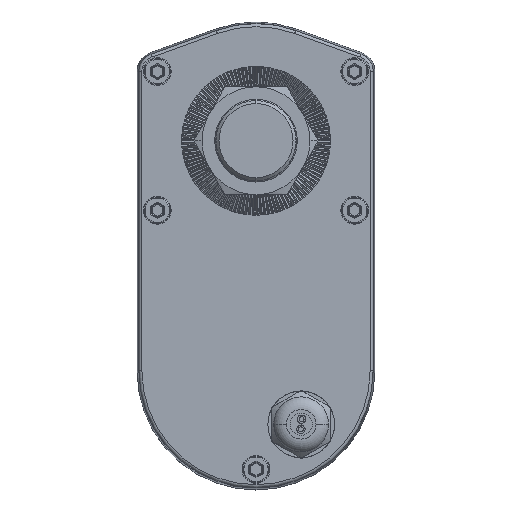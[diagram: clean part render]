
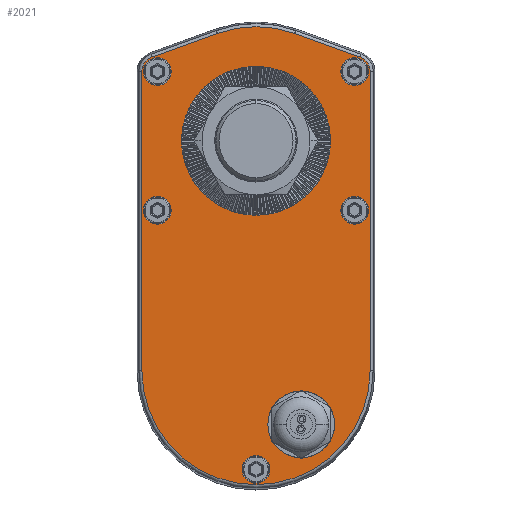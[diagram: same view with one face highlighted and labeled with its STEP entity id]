
A CAD part, top view. The second image highlights one B-rep face of the part: STEP entity #2021.
In plain terms, the highlighted planar face has unit normal (0, 0, 1).
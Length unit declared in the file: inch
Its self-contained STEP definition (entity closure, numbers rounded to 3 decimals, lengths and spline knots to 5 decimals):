
#2021=ADVANCED_FACE('NONE',(#4464,#4465,#4466,#4467,#4468,#4469,#4470,#4471),#4472,.F.);
#4464=FACE_OUTER_BOUND('',#8282,.T.);
#4465=FACE_BOUND('',#8283,.T.);
#4466=FACE_BOUND('',#8284,.T.);
#4467=FACE_BOUND('',#8285,.T.);
#4468=FACE_BOUND('',#8286,.T.);
#4469=FACE_BOUND('',#8287,.T.);
#4470=FACE_BOUND('',#8288,.T.);
#4471=FACE_BOUND('',#8289,.T.);
#4472=PLANE('',#8290);
#8282=EDGE_LOOP('',(#15380,#15381,#15382,#15383,#15384,#15385,#15386,#15387));
#8283=EDGE_LOOP('',(#15388,#15389));
#8284=EDGE_LOOP('',(#15390,#15391));
#8285=EDGE_LOOP('',(#15392,#15393));
#8286=EDGE_LOOP('',(#15394,#15395));
#8287=EDGE_LOOP('',(#15396,#15397));
#8288=EDGE_LOOP('',(#15398,#15399));
#8289=EDGE_LOOP('',(#15400,#15401));
#8290=AXIS2_PLACEMENT_3D('',#15402,#15403,#15404);
#15380=ORIENTED_EDGE('',*,*,#21590,.T.);
#15381=ORIENTED_EDGE('',*,*,#21272,.T.);
#15382=ORIENTED_EDGE('',*,*,#20710,.T.);
#15383=ORIENTED_EDGE('',*,*,#21415,.T.);
#15384=ORIENTED_EDGE('',*,*,#21591,.T.);
#15385=ORIENTED_EDGE('',*,*,#19439,.T.);
#15386=ORIENTED_EDGE('',*,*,#21251,.T.);
#15387=ORIENTED_EDGE('',*,*,#21131,.T.);
#15388=ORIENTED_EDGE('',*,*,#20568,.F.);
#15389=ORIENTED_EDGE('',*,*,#19794,.F.);
#15390=ORIENTED_EDGE('',*,*,#20284,.F.);
#15391=ORIENTED_EDGE('',*,*,#19831,.F.);
#15392=ORIENTED_EDGE('',*,*,#20483,.F.);
#15393=ORIENTED_EDGE('',*,*,#20927,.F.);
#15394=ORIENTED_EDGE('',*,*,#21501,.F.);
#15395=ORIENTED_EDGE('',*,*,#20973,.F.);
#15396=ORIENTED_EDGE('',*,*,#19483,.F.);
#15397=ORIENTED_EDGE('',*,*,#21203,.F.);
#15398=ORIENTED_EDGE('',*,*,#21513,.F.);
#15399=ORIENTED_EDGE('',*,*,#20187,.F.);
#15400=ORIENTED_EDGE('',*,*,#21592,.F.);
#15401=ORIENTED_EDGE('',*,*,#21593,.F.);
#15402=CARTESIAN_POINT('',(-1.10909,2.0322,16.91732));
#15403=DIRECTION('',(0.0,0.0,-1.0));
#15404=DIRECTION('',(0.0,-1.0,0.0));
#19439=EDGE_CURVE('NONE',#23115,#23119,#23121,.T.);
#19483=EDGE_CURVE('NONE',#23195,#23190,#23197,.T.);
#19794=EDGE_CURVE('NONE',#23761,#23437,#23763,.T.);
#19831=EDGE_CURVE('NONE',#23822,#23817,#23824,.T.);
#20187=EDGE_CURVE('NONE',#24392,#24395,#24396,.T.);
#20284=EDGE_CURVE('NONE',#23817,#23822,#24539,.T.);
#20483=EDGE_CURVE('NONE',#24852,#24855,#24856,.T.);
#20568=EDGE_CURVE('NONE',#23437,#23761,#24983,.T.);
#20710=EDGE_CURVE('NONE',#25221,#25219,#25222,.T.);
#20927=EDGE_CURVE('NONE',#24855,#24852,#25530,.T.);
#20973=EDGE_CURVE('NONE',#25590,#25585,#25592,.T.);
#21131=EDGE_CURVE('NONE',#25802,#25807,#25809,.T.);
#21203=EDGE_CURVE('NONE',#23190,#23195,#25903,.T.);
#21251=EDGE_CURVE('NONE',#23119,#25802,#25968,.T.);
#21272=EDGE_CURVE('NONE',#25992,#25221,#25996,.T.);
#21415=EDGE_CURVE('NONE',#25219,#26184,#26186,.T.);
#21501=EDGE_CURVE('NONE',#25585,#25590,#26290,.T.);
#21513=EDGE_CURVE('NONE',#24395,#24392,#26304,.T.);
#21590=EDGE_CURVE('NONE',#25807,#25992,#26393,.T.);
#21591=EDGE_CURVE('NONE',#26184,#23115,#26394,.T.);
#21592=EDGE_CURVE('NONE',#26395,#26396,#26397,.T.);
#21593=EDGE_CURVE('NONE',#26396,#26395,#26398,.T.);
#23115=VERTEX_POINT('NONE',#29674);
#23119=VERTEX_POINT('NONE',#29678);
#23121=CIRCLE('',#29680,1.45738);
#23190=VERTEX_POINT('',#29821);
#23195=VERTEX_POINT('NONE',#29827);
#23197=CIRCLE('',#29830,0.17717);
#23437=VERTEX_POINT('NONE',#30337);
#23761=VERTEX_POINT('',#31742);
#23763=CIRCLE('',#31745,0.94882);
#23817=VERTEX_POINT('NONE',#31843);
#23822=VERTEX_POINT('',#31849);
#23824=CIRCLE('',#31852,0.17717);
#24392=VERTEX_POINT('',#33251);
#24395=VERTEX_POINT('NONE',#33255);
#24396=CIRCLE('',#33256,0.17717);
#24539=CIRCLE('',#33522,0.17717);
#24852=VERTEX_POINT('NONE',#34227);
#24855=VERTEX_POINT('',#34231);
#24856=CIRCLE('',#34232,0.17717);
#24983=CIRCLE('',#34479,0.94882);
#25219=VERTEX_POINT('NONE',#35678);
#25221=VERTEX_POINT('NONE',#35680);
#25222=LINE('',#35681,#35682);
#25530=CIRCLE('',#36328,0.17717);
#25585=VERTEX_POINT('NONE',#36404);
#25590=VERTEX_POINT('',#36410);
#25592=CIRCLE('',#36413,0.17717);
#25802=VERTEX_POINT('NONE',#36932);
#25807=VERTEX_POINT('NONE',#36937);
#25809=CIRCLE('',#36939,0.19754);
#25903=CIRCLE('',#37118,0.17717);
#25968=LINE('',#37336,#37337);
#25992=VERTEX_POINT('NONE',#37408);
#25996=CIRCLE('',#37412,1.45718);
#26184=VERTEX_POINT('NONE',#37835);
#26186=CIRCLE('',#37837,0.19754);
#26290=CIRCLE('',#38090,0.17717);
#26304=CIRCLE('',#38107,0.17717);
#26393=LINE('',#38300,#38301);
#26394=LINE('',#38302,#38303);
#26395=VERTEX_POINT('NONE',#38304);
#26396=VERTEX_POINT('',#38305);
#26397=CIRCLE('',#38306,0.31004);
#26398=CIRCLE('',#38307,0.31004);
#29674=CARTESIAN_POINT('',(-0.61359,3.40276,16.91732));
#29678=CARTESIAN_POINT('',(-1.60458,3.40276,16.91732));
#29680=AXIS2_PLACEMENT_3D('',#40931,#40932,#40933);
#29821=CARTESIAN_POINT('',(0.32792,1.1448,16.91732));
#29827=CARTESIAN_POINT('',(-0.02641,1.1448,16.91732));
#29830=AXIS2_PLACEMENT_3D('',#40976,#40977,#40978);
#30337=CARTESIAN_POINT('',(-2.05791,2.0322,16.91732));
#31742=CARTESIAN_POINT('',(-0.16027,2.0322,16.91732));
#31745=AXIS2_PLACEMENT_3D('',#41288,#41289,#41290);
#31843=CARTESIAN_POINT('',(-2.19176,2.91645,16.91732));
#31849=CARTESIAN_POINT('',(-2.54609,2.91645,16.91732));
#31852=AXIS2_PLACEMENT_3D('',#41332,#41333,#41334);
#33251=CARTESIAN_POINT('',(0.32792,2.91645,16.91732));
#33255=CARTESIAN_POINT('',(-0.02641,2.91645,16.91732));
#33256=AXIS2_PLACEMENT_3D('',#41676,#41677,#41678);
#33522=AXIS2_PLACEMENT_3D('',#41789,#41790,#41791);
#34227=CARTESIAN_POINT('',(-2.19176,1.1448,16.91732));
#34231=CARTESIAN_POINT('',(-2.54609,1.1448,16.91732));
#34232=AXIS2_PLACEMENT_3D('',#42008,#42009,#42010);
#34479=AXIS2_PLACEMENT_3D('',#42114,#42115,#42116);
#35678=CARTESIAN_POINT('',(0.3481,2.91645,16.91732));
#35680=CARTESIAN_POINT('',(0.3481,-0.90067,16.91732));
#35681=CARTESIAN_POINT('',(0.3481,2.91645,16.91732));
#35682=VECTOR('',#42237,39.37008);
#36328=AXIS2_PLACEMENT_3D('',#42453,#42454,#42455);
#36404=CARTESIAN_POINT('',(-0.93192,-2.16229,16.91732));
#36410=CARTESIAN_POINT('',(-1.28625,-2.16229,16.91732));
#36413=AXIS2_PLACEMENT_3D('',#42513,#42514,#42515);
#36932=CARTESIAN_POINT('',(-2.43589,3.10222,16.91732));
#36937=CARTESIAN_POINT('',(-2.56627,2.91645,16.91732));
#36939=AXIS2_PLACEMENT_3D('',#42658,#42659,#42660);
#37118=AXIS2_PLACEMENT_3D('',#42733,#42734,#42735);
#37336=CARTESIAN_POINT('',(-2.43589,3.10222,16.91732));
#37337=VECTOR('',#42781,39.37008);
#37408=CARTESIAN_POINT('',(-2.56627,-0.90067,16.91732));
#37412=AXIS2_PLACEMENT_3D('',#42795,#42796,#42797);
#37835=CARTESIAN_POINT('',(0.21772,3.10222,16.91732));
#37837=AXIS2_PLACEMENT_3D('',#42940,#42941,#42942);
#38090=AXIS2_PLACEMENT_3D('',#43013,#43014,#43015);
#38107=AXIS2_PLACEMENT_3D('',#43031,#43032,#43033);
#38300=CARTESIAN_POINT('',(-2.56627,-0.90067,16.91732));
#38301=VECTOR('',#43086,39.37008);
#38302=CARTESIAN_POINT('',(-0.61359,3.40276,16.91732));
#38303=VECTOR('',#43087,39.37008);
#38304=CARTESIAN_POINT('',(-0.84212,-1.58851,16.91732));
#38305=CARTESIAN_POINT('',(-0.22204,-1.58851,16.91732));
#38306=AXIS2_PLACEMENT_3D('',#43088,#43089,#43090);
#38307=AXIS2_PLACEMENT_3D('',#43091,#43092,#43093);
#40931=CARTESIAN_POINT('',(-1.10909,2.0322,16.91732));
#40932=DIRECTION('',(0.0,0.0,1.0));
#40933=DIRECTION('',(-1.0,0.,0.0));
#40976=CARTESIAN_POINT('',(0.15076,1.1448,16.91732));
#40977=DIRECTION('',(0.0,0.0,1.0));
#40978=DIRECTION('',(-1.0,0.0,0.0));
#41288=CARTESIAN_POINT('',(-1.10909,2.0322,16.91732));
#41289=DIRECTION('',(0.0,0.0,1.0));
#41290=DIRECTION('',(-1.0,0.0,0.0));
#41332=CARTESIAN_POINT('',(-2.36893,2.91645,16.91732));
#41333=DIRECTION('',(0.0,0.0,1.0));
#41334=DIRECTION('',(1.0,0.0,0.0));
#41676=CARTESIAN_POINT('',(0.15076,2.91645,16.91732));
#41677=DIRECTION('',(0.0,0.0,1.0));
#41678=DIRECTION('',(-1.0,0.0,0.0));
#41789=CARTESIAN_POINT('',(-2.36893,2.91645,16.91732));
#41790=DIRECTION('',(0.0,0.0,1.0));
#41791=DIRECTION('',(1.0,0.0,0.0));
#42008=CARTESIAN_POINT('',(-2.36893,1.1448,16.91732));
#42009=DIRECTION('',(0.0,0.0,1.0));
#42010=DIRECTION('',(1.0,0.0,0.0));
#42114=CARTESIAN_POINT('',(-1.10909,2.0322,16.91732));
#42115=DIRECTION('',(0.0,0.0,1.0));
#42116=DIRECTION('',(-1.0,0.0,0.0));
#42237=DIRECTION('',(0.,1.0,0.0));
#42453=CARTESIAN_POINT('',(-2.36893,1.1448,16.91732));
#42454=DIRECTION('',(0.0,0.0,1.0));
#42455=DIRECTION('',(1.0,0.0,0.0));
#42513=CARTESIAN_POINT('',(-1.10909,-2.16229,16.91732));
#42514=DIRECTION('',(0.0,0.0,1.0));
#42515=DIRECTION('',(1.0,0.0,0.0));
#42658=CARTESIAN_POINT('',(-2.36873,2.91645,16.91732));
#42659=DIRECTION('',(0.0,0.0,1.0));
#42660=DIRECTION('',(-1.0,0.0,0.0));
#42733=CARTESIAN_POINT('',(0.15076,1.1448,16.91732));
#42734=DIRECTION('',(0.0,0.0,1.0));
#42735=DIRECTION('',(-1.0,0.0,0.0));
#42781=DIRECTION('',(-0.94,-0.34,-0.0));
#42795=CARTESIAN_POINT('',(-1.10909,-0.90067,16.91732));
#42796=DIRECTION('',(0.0,0.0,1.0));
#42797=DIRECTION('',(-1.0,0.0,0.0));
#42940=CARTESIAN_POINT('',(0.15056,2.91645,16.91732));
#42941=DIRECTION('',(0.0,0.0,1.0));
#42942=DIRECTION('',(-1.0,0.,0.0));
#43013=CARTESIAN_POINT('',(-1.10909,-2.16229,16.91732));
#43014=DIRECTION('',(0.0,0.0,1.0));
#43015=DIRECTION('',(1.0,0.0,0.0));
#43031=CARTESIAN_POINT('',(0.15076,2.91645,16.91732));
#43032=DIRECTION('',(0.0,0.0,1.0));
#43033=DIRECTION('',(-1.0,0.0,0.0));
#43086=DIRECTION('',(0.,-1.0,-0.0));
#43087=DIRECTION('',(-0.94,0.34,0.0));
#43088=CARTESIAN_POINT('',(-0.53208,-1.58851,16.91732));
#43089=DIRECTION('',(0.0,0.0,1.0));
#43090=DIRECTION('',(-1.0,0.0,0.0));
#43091=CARTESIAN_POINT('',(-0.53208,-1.58851,16.91732));
#43092=DIRECTION('',(0.0,0.0,1.0));
#43093=DIRECTION('',(-1.0,0.0,0.0));
